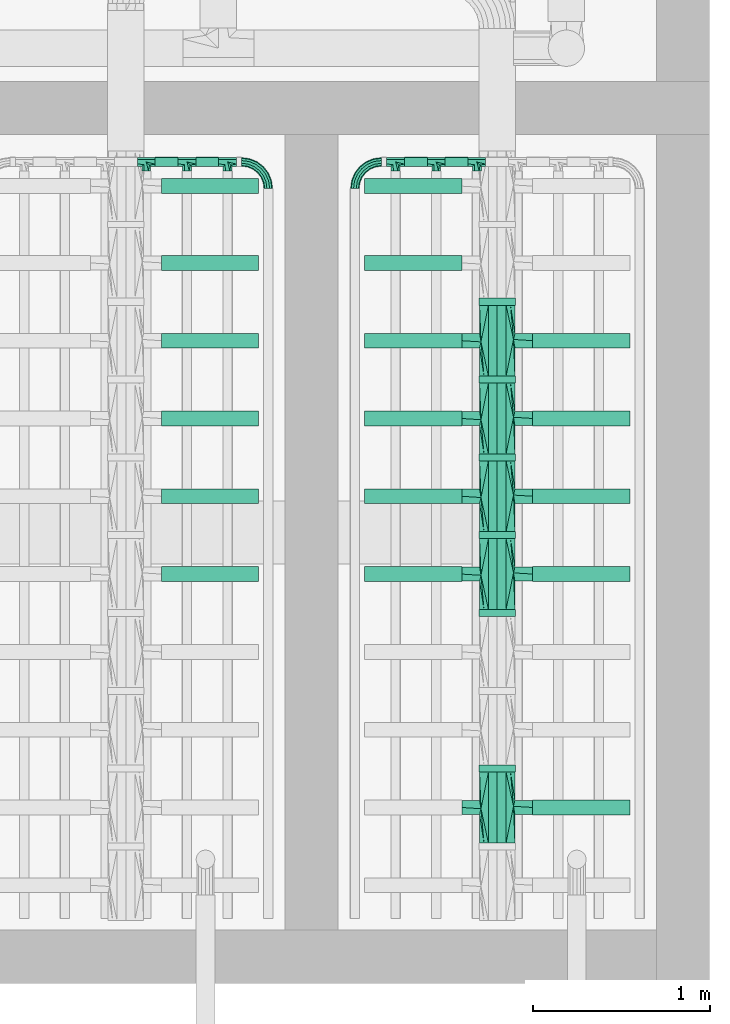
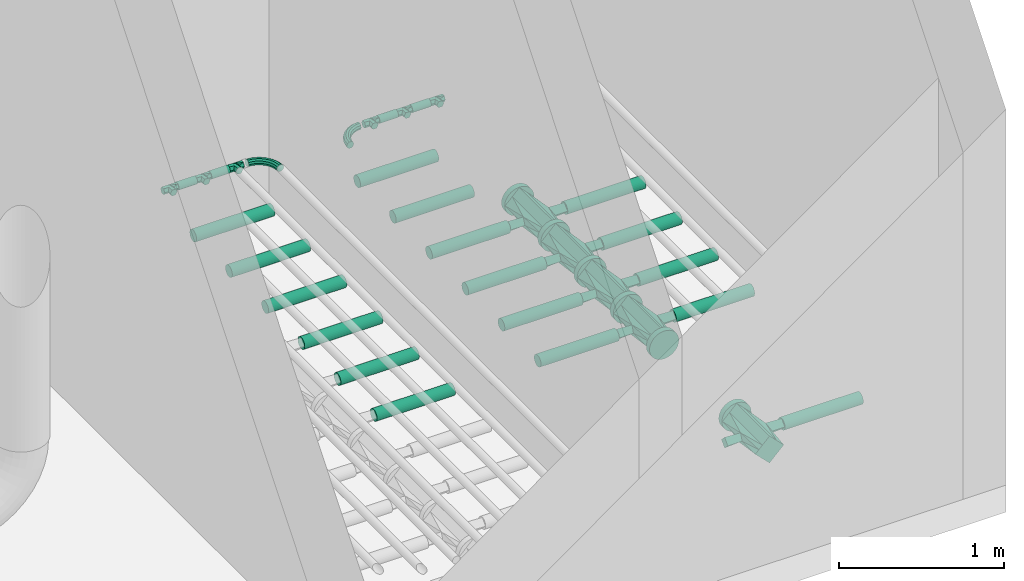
# One storey, part 21 of 28: 27 flow segments, 13 flow fittings.
"""IFC2X3 building model written with IfcOpenShell, lengths in millimetres."""

from ifc_helpers import new_model, entity, si_unit, converted_unit, direction, frame, frame_2d, origin, origin_2d_with_axis, place, context, subcontext, project, spatial, circle, extrude, faceted_brep, source, transform, mapped, material, type_object, type_shapes, element, save


model = new_model("IFC2X3")

# Units and contexts
model_context = context("Model", 3, precision=0.01, world=origin(), true_north=direction((6.123031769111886e-17, 1.0)))
body_context = subcontext(model_context, "Body", "Model", "MODEL_VIEW")
ifc_project = project(units=[si_unit("LENGTHUNIT", "METRE", prefix="MILLI"), converted_unit("PLANEANGLEUNIT", "DEGREE", entity("IfcPlaneAngleMeasure", 0.017453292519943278), si_unit("PLANEANGLEUNIT", "RADIAN"), dimensions=[0, 0, 0, 0, 0, 0, 0]), si_unit("AREAUNIT", "SQUARE_METRE")], contexts=[model_context])

# Site, building, storey
site_placement = place(None, frame((7776.576483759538, 118.3519876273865, 0.0)))
site = spatial("IfcSite", under=ifc_project, at=site_placement, Name="Default", CompositionType="ELEMENT")
building_placement = place(site_placement, origin())
building = spatial("IfcBuilding", under=site, at=building_placement, Name="Bygning (endres i Project Information)", CompositionType="ELEMENT")
storey_placement = place(building_placement, frame((0.0, 0.0, 14000.0)))
storey = spatial("IfcBuildingStorey", under=building, at=storey_placement, Name="Plan U1 - Arbeid", CompositionType="ELEMENT", Elevation=14000.000000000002)

# Flow segments
ifc_material = material(Name="SS 2343 Rustfritt stål, prosessrør, generisk")
pipe_segment_type = type_object("IfcPipeSegmentType", Name="Pipe Types:AISI 304L Rustfritt", PredefinedType="NOTDEFINED", material=ifc_material)
flow_segment_1_placement = place(storey_placement, origin())
element("IfcFlowSegment", 1, at=flow_segment_1_placement, inside=storey, type_object=pipe_segment_type, Name="Pipe Types:AISI 304L Rustfritt", ObjectType="Pipe Types:AISI 304L Rustfritt", context=body_context, shape_type="SweptSolid", body=[
    extrude(circle(Radius=42.0, at=origin_2d_with_axis()), frame((29174.001374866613, 23905.75730578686, 203.0), z_axis=(1.0, 0.0, 0.0), x_axis=(0.0, -1.0, 0.0)), (0.0, 0.0, 1.0), 549.99999999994),
])
flow_segment_2_placement = place(storey_placement, origin())
element("IfcFlowSegment", 2, at=flow_segment_2_placement, inside=storey, type_object=pipe_segment_type, Name="Pipe Types:AISI 304L Rustfritt", ObjectType="Pipe Types:AISI 304L Rustfritt", context=body_context, shape_type="SweptSolid", body=[
    extrude(circle(Radius=42.0, at=origin_2d_with_axis()), frame((29174.001374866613, 23471.757305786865, 203.0), z_axis=(1.0, 0.0, 0.0), x_axis=(0.0, -1.0, 0.0)), (0.0, 0.0, 1.0), 549.99999999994),
])
flow_segment_3_placement = place(storey_placement, origin())
element("IfcFlowSegment", 3, at=flow_segment_3_placement, inside=storey, type_object=pipe_segment_type, Name="Pipe Types:AISI 304L Rustfritt", ObjectType="Pipe Types:AISI 304L Rustfritt", context=body_context, shape_type="SweptSolid", body=[
    extrude(circle(Radius=42.0, at=origin_2d_with_axis()), frame((29174.001374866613, 23031.757305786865, 203.0), z_axis=(1.0, 0.0, 0.0), x_axis=(0.0, -1.0, 0.0)), (0.0, 0.0, 1.0), 549.99999999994),
])
flow_segment_4_placement = place(storey_placement, origin())
element("IfcFlowSegment", 4, at=flow_segment_4_placement, inside=storey, type_object=pipe_segment_type, Name="Pipe Types:AISI 304L Rustfritt", ObjectType="Pipe Types:AISI 304L Rustfritt", context=body_context, shape_type="SweptSolid", body=[
    extrude(circle(Radius=42.0, at=origin_2d_with_axis()), frame((29174.001374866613, 22151.757305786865, 203.0), z_axis=(1.0, 0.0, 0.0), x_axis=(0.0, -1.0, 0.0)), (0.0, 0.0, 1.0), 549.99999999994),
])
flow_segment_5_placement = place(storey_placement, origin())
element("IfcFlowSegment", 5, at=flow_segment_5_placement, inside=storey, type_object=pipe_segment_type, Name="Pipe Types:AISI 304L Rustfritt", ObjectType="Pipe Types:AISI 304L Rustfritt", context=body_context, shape_type="SweptSolid", body=[
    extrude(circle(Radius=42.0, at=origin_2d_with_axis()), frame((29174.001374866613, 21711.757305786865, 203.0), z_axis=(1.0, 0.0, 0.0), x_axis=(0.0, -1.0, 0.0)), (0.0, 0.0, 1.0), 549.99999999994),
])
flow_segment_6_placement = place(storey_placement, origin())
element("IfcFlowSegment", 6, at=flow_segment_6_placement, inside=storey, type_object=pipe_segment_type, Name="Pipe Types:AISI 304L Rustfritt", ObjectType="Pipe Types:AISI 304L Rustfritt", context=body_context, shape_type="SweptSolid", body=[
    extrude(circle(Radius=27.0, at=frame_2d((0.0, -2.1657342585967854e-12), x_axis=(1.0, 0.0))), frame((29139.001374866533, 24042.757305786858, 500.0), z_axis=(1.0, 0.0, 0.0), x_axis=(0.0, -1.0, 0.0)), (0.0, 0.0, 1.0), 130.00000000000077),
])
flow_segment_7_placement = place(storey_placement, origin())
element("IfcFlowSegment", 7, at=flow_segment_7_placement, inside=storey, type_object=pipe_segment_type, Name="Pipe Types:AISI 304L Rustfritt", ObjectType="Pipe Types:AISI 304L Rustfritt", context=body_context, shape_type="SweptSolid", body=[
    extrude(circle(Radius=27.0, at=frame_2d((0.0, -2.1657342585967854e-12), x_axis=(1.0, 0.0))), frame((29369.001374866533, 24042.757305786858, 500.0), z_axis=(1.0, 0.0, 0.0), x_axis=(0.0, -1.0, 0.0)), (0.0, 0.0, 1.0), 130.00000000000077),
])
flow_segment_8_placement = place(storey_placement, origin())
element("IfcFlowSegment", 8, at=flow_segment_8_placement, inside=storey, type_object=pipe_segment_type, Name="Pipe Types:AISI 304L Rustfritt", ObjectType="Pipe Types:AISI 304L Rustfritt", context=body_context, shape_type="SweptSolid", body=[
    extrude(circle(Radius=42.0, at=origin_2d_with_axis()), frame((30324.001374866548, 23905.757305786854, 203.0), z_axis=(1.0, 0.0, 0.0), x_axis=(0.0, -1.0, 0.0)), (0.0, 0.0, 1.0), 550.0000000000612),
])
flow_segment_9_placement = place(storey_placement, origin())
element("IfcFlowSegment", 9, at=flow_segment_9_placement, inside=storey, type_object=pipe_segment_type, Name="Pipe Types:AISI 304L Rustfritt", ObjectType="Pipe Types:AISI 304L Rustfritt", context=body_context, shape_type="SweptSolid", body=[
    extrude(circle(Radius=42.0, at=origin_2d_with_axis()), frame((30324.001374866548, 23471.757305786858, 203.0), z_axis=(1.0, 0.0, 0.0), x_axis=(0.0, -1.0, 0.0)), (0.0, 0.0, 1.0), 550.0000000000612),
])
flow_segment_10_placement = place(storey_placement, origin())
element("IfcFlowSegment", 10, at=flow_segment_10_placement, inside=storey, type_object=pipe_segment_type, Name="Pipe Types:AISI 304L Rustfritt", ObjectType="Pipe Types:AISI 304L Rustfritt", context=body_context, shape_type="SweptSolid", body=[
    extrude(circle(Radius=42.0, at=origin_2d_with_axis()), frame((31274.00137486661, 23031.757305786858, 203.0), z_axis=(1.0, 0.0, 0.0), x_axis=(0.0, -1.0, 0.0)), (0.0, 0.0, 1.0), 549.99999999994),
])
flow_segment_11_placement = place(storey_placement, origin())
element("IfcFlowSegment", 11, at=flow_segment_11_placement, inside=storey, type_object=pipe_segment_type, Name="Pipe Types:AISI 304L Rustfritt", ObjectType="Pipe Types:AISI 304L Rustfritt", context=body_context, shape_type="SweptSolid", body=[
    extrude(circle(Radius=42.0, at=origin_2d_with_axis()), frame((30324.001374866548, 23031.757305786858, 203.0), z_axis=(1.0, 0.0, 0.0), x_axis=(0.0, -1.0, 0.0)), (0.0, 0.0, 1.0), 550.0000000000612),
])
flow_segment_12_placement = place(storey_placement, origin())
element("IfcFlowSegment", 12, at=flow_segment_12_placement, inside=storey, type_object=pipe_segment_type, Name="Pipe Types:AISI 304L Rustfritt", ObjectType="Pipe Types:AISI 304L Rustfritt", context=body_context, shape_type="SweptSolid", body=[
    extrude(circle(Radius=103.0, at=origin_2d_with_axis()), frame((31074.001374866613, 23231.757305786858, 203.0), z_axis=(0.0, 1.0, 0.0), x_axis=(1.0, 0.0, 0.0)), (0.0, 0.0, 1.0), 39.99999999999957),
])
flow_segment_13_placement = place(storey_placement, origin())
element("IfcFlowSegment", 13, at=flow_segment_13_placement, inside=storey, type_object=pipe_segment_type, Name="Pipe Types:AISI 304L Rustfritt", ObjectType="Pipe Types:AISI 304L Rustfritt", context=body_context, shape_type="SweptSolid", body=[
    extrude(circle(Radius=42.0, at=origin_2d_with_axis()), frame((30324.001374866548, 22591.757305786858, 203.0), z_axis=(1.0, 0.0, 0.0), x_axis=(0.0, -1.0, 0.0)), (0.0, 0.0, 1.0), 550.0000000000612),
])
flow_segment_14_placement = place(storey_placement, origin())
element("IfcFlowSegment", 14, at=flow_segment_14_placement, inside=storey, type_object=pipe_segment_type, Name="Pipe Types:AISI 304L Rustfritt", ObjectType="Pipe Types:AISI 304L Rustfritt", context=body_context, shape_type="SweptSolid", body=[
    extrude(circle(Radius=103.0, at=origin_2d_with_axis()), frame((31074.001374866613, 22791.757305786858, 203.0), z_axis=(0.0, 1.0, 0.0), x_axis=(1.0, 0.0, 0.0)), (0.0, 0.0, 1.0), 39.99999999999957),
])
flow_segment_15_placement = place(storey_placement, origin())
element("IfcFlowSegment", 15, at=flow_segment_15_placement, inside=storey, type_object=pipe_segment_type, Name="Pipe Types:AISI 304L Rustfritt", ObjectType="Pipe Types:AISI 304L Rustfritt", context=body_context, shape_type="SweptSolid", body=[
    extrude(circle(Radius=42.0, at=origin_2d_with_axis()), frame((31274.00137486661, 22151.757305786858, 203.0), z_axis=(1.0, 0.0, 0.0), x_axis=(0.0, -1.0, 0.0)), (0.0, 0.0, 1.0), 549.99999999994),
])
flow_segment_16_placement = place(storey_placement, origin())
element("IfcFlowSegment", 16, at=flow_segment_16_placement, inside=storey, type_object=pipe_segment_type, Name="Pipe Types:AISI 304L Rustfritt", ObjectType="Pipe Types:AISI 304L Rustfritt", context=body_context, shape_type="SweptSolid", body=[
    extrude(circle(Radius=42.0, at=origin_2d_with_axis()), frame((30324.001374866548, 22151.757305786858, 203.0), z_axis=(1.0, 0.0, 0.0), x_axis=(0.0, -1.0, 0.0)), (0.0, 0.0, 1.0), 550.0000000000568),
])
flow_segment_17_placement = place(storey_placement, origin())
element("IfcFlowSegment", 17, at=flow_segment_17_placement, inside=storey, type_object=pipe_segment_type, Name="Pipe Types:AISI 304L Rustfritt", ObjectType="Pipe Types:AISI 304L Rustfritt", context=body_context, shape_type="SweptSolid", body=[
    extrude(circle(Radius=103.0, at=origin_2d_with_axis()), frame((31074.00137486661, 22351.75730578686, 203.0), z_axis=(0.0, 1.0, 0.0), x_axis=(1.0, 0.0, 0.0)), (0.0, 0.0, 1.0), 39.99999999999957),
])
flow_segment_18_placement = place(storey_placement, origin())
element("IfcFlowSegment", 18, at=flow_segment_18_placement, inside=storey, type_object=pipe_segment_type, Name="Pipe Types:AISI 304L Rustfritt", ObjectType="Pipe Types:AISI 304L Rustfritt", context=body_context, shape_type="SweptSolid", body=[
    extrude(circle(Radius=42.0, at=origin_2d_with_axis()), frame((31274.00137486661, 21711.757305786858, 203.0), z_axis=(1.0, 0.0, 0.0), x_axis=(0.0, -1.0, 0.0)), (0.0, 0.0, 1.0), 549.99999999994),
])
flow_segment_19_placement = place(storey_placement, origin())
element("IfcFlowSegment", 19, at=flow_segment_19_placement, inside=storey, type_object=pipe_segment_type, Name="Pipe Types:AISI 304L Rustfritt", ObjectType="Pipe Types:AISI 304L Rustfritt", context=body_context, shape_type="SweptSolid", body=[
    extrude(circle(Radius=42.0, at=origin_2d_with_axis()), frame((30324.001374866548, 21711.757305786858, 203.0), z_axis=(1.0, 0.0, 0.0), x_axis=(0.0, -1.0, 0.0)), (0.0, 0.0, 1.0), 550.0000000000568),
])
flow_segment_20_placement = place(storey_placement, origin())
element("IfcFlowSegment", 20, at=flow_segment_20_placement, inside=storey, type_object=pipe_segment_type, Name="Pipe Types:AISI 304L Rustfritt", ObjectType="Pipe Types:AISI 304L Rustfritt", context=body_context, shape_type="SweptSolid", body=[
    extrude(circle(Radius=103.0, at=origin_2d_with_axis()), frame((31074.00137486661, 21911.75730578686, 203.0), z_axis=(0.0, 1.0, 0.0), x_axis=(1.0, 0.0, 0.0)), (0.0, 0.0, 1.0), 39.99999999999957),
])
flow_segment_21_placement = place(storey_placement, origin())
element("IfcFlowSegment", 21, at=flow_segment_21_placement, inside=storey, type_object=pipe_segment_type, Name="Pipe Types:AISI 304L Rustfritt", ObjectType="Pipe Types:AISI 304L Rustfritt", context=body_context, shape_type="SweptSolid", body=[
    extrude(circle(Radius=103.0, at=origin_2d_with_axis()), frame((31074.00137486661, 21471.757305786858, 203.0), z_axis=(0.0, 1.0, 0.0), x_axis=(1.0, 0.0, 0.0)), (0.0, 0.0, 1.0), 40.0000000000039),
])
flow_segment_22_placement = place(storey_placement, origin())
element("IfcFlowSegment", 22, at=flow_segment_22_placement, inside=storey, type_object=pipe_segment_type, Name="Pipe Types:AISI 304L Rustfritt", ObjectType="Pipe Types:AISI 304L Rustfritt", context=body_context, shape_type="SweptSolid", body=[
    extrude(circle(Radius=42.0, at=origin_2d_with_axis()), frame((31274.00137486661, 20391.757305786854, 203.0), z_axis=(1.0, 0.0, 0.0), x_axis=(0.0, -1.0, 0.0)), (0.0, 0.0, 1.0), 549.99999999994),
])
flow_segment_23_placement = place(storey_placement, origin())
element("IfcFlowSegment", 23, at=flow_segment_23_placement, inside=storey, type_object=pipe_segment_type, Name="Pipe Types:AISI 304L Rustfritt", ObjectType="Pipe Types:AISI 304L Rustfritt", context=body_context, shape_type="SweptSolid", body=[
    extrude(circle(Radius=103.0, at=origin_2d_with_axis()), frame((31074.00137486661, 20591.757305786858, 203.0), z_axis=(0.0, 1.0, 0.0), x_axis=(1.0, 0.0, 0.0)), (0.0, 0.0, 1.0), 39.99999999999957),
])
flow_segment_24_placement = place(storey_placement, origin())
element("IfcFlowSegment", 24, at=flow_segment_24_placement, inside=storey, type_object=pipe_segment_type, Name="Pipe Types:AISI 304L Rustfritt", ObjectType="Pipe Types:AISI 304L Rustfritt", context=body_context, shape_type="SweptSolid", body=[
    extrude(circle(Radius=27.0, at=frame_2d((0.0, -2.1657342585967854e-12), x_axis=(1.0, 0.0))), frame((30549.00137486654, 24042.757305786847, 500.0), z_axis=(1.0, 0.0, 0.0), x_axis=(0.0, -1.0, 0.0)), (0.0, 0.0, 1.0), 130.00000000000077),
])
flow_segment_25_placement = place(storey_placement, origin())
element("IfcFlowSegment", 25, at=flow_segment_25_placement, inside=storey, type_object=pipe_segment_type, Name="Pipe Types:AISI 304L Rustfritt", ObjectType="Pipe Types:AISI 304L Rustfritt", context=body_context, shape_type="SweptSolid", body=[
    extrude(circle(Radius=27.0, at=frame_2d((0.0, -2.1657342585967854e-12), x_axis=(1.0, 0.0))), frame((30779.00137486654, 24042.757305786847, 500.0), z_axis=(1.0, 0.0, 0.0), x_axis=(0.0, -1.0, 0.0)), (0.0, 0.0, 1.0), 129.9999999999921),
])
flow_segment_26_placement = place(storey_placement, origin())
element("IfcFlowSegment", 26, at=flow_segment_26_placement, inside=storey, type_object=pipe_segment_type, Name="Pipe Types:AISI 304L Rustfritt", ObjectType="Pipe Types:AISI 304L Rustfritt", context=body_context, shape_type="SweptSolid", body=[
    extrude(circle(Radius=42.0, at=origin_2d_with_axis()), frame((29174.001374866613, 22591.757305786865, 203.0), z_axis=(1.0, 0.0, 0.0), x_axis=(0.0, -1.0, 0.0)), (0.0, 0.0, 1.0), 549.99999999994),
])
flow_segment_27_placement = place(storey_placement, origin())
element("IfcFlowSegment", 27, at=flow_segment_27_placement, inside=storey, type_object=pipe_segment_type, Name="Pipe Types:AISI 304L Rustfritt", ObjectType="Pipe Types:AISI 304L Rustfritt", context=body_context, shape_type="SweptSolid", body=[
    extrude(circle(Radius=42.0, at=origin_2d_with_axis()), frame((31274.00137486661, 22591.757305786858, 203.0), z_axis=(1.0, 0.0, 0.0), x_axis=(0.0, -1.0, 0.0)), (0.0, 0.0, 1.0), 549.99999999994),
])

# Flow fittings
pipe_fitting_type_1 = type_object("IfcPipeFittingType", Name="VA_prosess_rustfritt_kryss:VA_prosess_rustfritt_kryss", PredefinedType="NOTDEFINED", material=ifc_material)
shared_shape_1 = source(origin(), body_context, "Body", "Brep", [
    faceted_brep([(-200.0, -100.0, 0.0), (-200.0, -50.0, 50.0), (-200.0, 0.0, 100.0), (-200.0, 50.0, 50.0), (-200.0, 75.0, 25.0), (-200.0, 100.0, 0.0), (-200.0, 50.0, -50.0), (-200.0, 0.0, -100.0), (-200.0, -50.0, -50.0), (-200.0, -75.0, -25.0), (200.0, 50.0, -50.0), (200.0, 75.0, -25.0), (200.0, 100.0, 0.0), (200.0, 50.0, 50.0), (200.0, 0.0, 100.0), (200.0, -50.0, 50.0), (200.0, -75.0, 25.0), (200.0, -100.0, 0.0), (200.0, -50.0, -50.0), (200.0, 0.0, -100.0), (40.0, -100.0, 0.0), (-7.006670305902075, 91.91895032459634, 39.381551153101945), (-40.0, -100.0, 0.0), (-28.24833242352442, -97.97973758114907, 9.845387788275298), (-16.496664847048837, -95.9594751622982, 19.690775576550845), (-4.744997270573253, -93.93921274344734, 29.53616336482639), (7.00667030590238, -91.91895032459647, 39.38155115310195), (23.50333515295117, -95.95947516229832, 19.690775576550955), (-23.503335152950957, 95.95947516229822, 19.69077557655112), (-40.0, 100.0, 0.0), (40.0, 100.0, 0.0), (28.248332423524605, 97.97973758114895, 9.845387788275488), (16.496664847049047, 95.95947516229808, 19.690775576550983), (4.744997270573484, 93.93921274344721, 29.536163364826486), (-7.017574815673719, -91.91978218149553, -39.37960949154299), (-23.508787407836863, -95.95989109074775, -19.68980474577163), (-28.245606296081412, 97.97994554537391, -9.844902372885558), (-16.491212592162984, 95.95989109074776, -19.689804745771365), (-4.736818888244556, 93.93983663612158, -29.534707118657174), (7.017574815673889, 91.91978218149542, -39.37960949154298), (23.508787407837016, 95.95989109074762, -19.689804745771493), (28.24560629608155, -97.97994554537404, -9.844902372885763), (16.49121259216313, -95.95989109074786, -19.689804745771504), (4.736818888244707, -93.9398366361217, -29.53470711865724), (19.233483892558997, -200.0, -20.76651610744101), (29.616741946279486, -200.0, -10.383258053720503), (40.0, -200.0, 0.0), (20.0, -200.0, 20.0), (0.0, -200.0, 40.0), (-19.2334837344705, -200.0, 20.76651626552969), (-29.616741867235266, -200.0, 10.383258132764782), (-40.0, -200.0, 0.0), (-20.0, -200.0, -20.0), (0.0, -200.0, -40.0), (-19.23348389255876, 200.0, -20.766516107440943), (-29.616741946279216, 200.0, -10.38325805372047), (-40.0, 200.0, 0.0), (-20.0, 200.0, 20.0), (0.0, 200.0, 40.0), (19.233483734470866, 200.0, 20.76651626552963), (29.616741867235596, 200.0, 10.383258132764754), (40.0, 200.0, 0.0), (20.0, 200.0, -20.0), (0.0, 200.0, -40.0)], [[[0, 1, 2, 3, 4, 5, 6, 7, 8, 9]], [[10, 11, 12, 13, 14, 15, 16, 17, 18, 19]], [[17, 16, 20]], [[15, 14, 2, 1]], [[3, 13, 21]], [[0, 22, 23, 24, 25, 26]], [[0, 26, 1]], [[16, 26, 27, 20]], [[4, 21, 28, 29]], [[21, 13, 12]], [[26, 16, 15]], [[12, 30, 31, 32, 33, 21]], [[29, 5, 4]], [[2, 14, 13, 3]], [[21, 4, 3]], [[1, 26, 15]], [[11, 30, 12]], [[10, 19, 7, 6]], [[34, 9, 8]], [[9, 34, 35, 22]], [[5, 29, 36, 37, 38, 39]], [[39, 11, 10]], [[5, 39, 6]], [[34, 18, 17]], [[11, 39, 40, 30]], [[17, 20, 41, 42, 43, 34]], [[22, 0, 9]], [[7, 19, 18, 8]], [[6, 39, 10]], [[8, 18, 34]], [[44, 45, 46, 47, 48, 49, 50, 51, 52, 53]], [[25, 24, 23, 49]], [[49, 23, 50]], [[50, 22, 51]], [[49, 48, 25]], [[26, 48, 47]], [[47, 27, 26]], [[20, 27, 46]], [[46, 27, 47]], [[48, 26, 25]], [[22, 50, 23]], [[43, 42, 41, 44]], [[44, 41, 45]], [[45, 20, 46]], [[44, 53, 43]], [[34, 53, 52]], [[52, 35, 34]], [[22, 35, 51]], [[51, 35, 52]], [[53, 34, 43]], [[20, 45, 41]], [[54, 55, 56, 57, 58, 59, 60, 61, 62, 63]], [[33, 32, 31, 59]], [[59, 31, 60]], [[60, 30, 61]], [[59, 58, 33]], [[21, 58, 57]], [[57, 28, 21]], [[29, 28, 56]], [[56, 28, 57]], [[58, 21, 33]], [[30, 60, 31]], [[38, 37, 36, 54]], [[54, 36, 55]], [[55, 29, 56]], [[54, 63, 38]], [[39, 63, 62]], [[62, 40, 39]], [[30, 40, 61]], [[61, 40, 62]], [[63, 39, 38]], [[29, 55, 36]]]),
])
type_shapes(pipe_fitting_type_1, [shared_shape_1])
for number, where, z_axis, x_axis in (
    (28, (31074.001374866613, 23031.757305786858, 203.0), (0.0, 0.0, 1.0), (0.0, 1.0, 0.0)),
    (29, (31074.001374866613, 22591.757305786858, 203.0), (0.0, 0.0, 1.0), (0.0, 1.0, 0.0)),
    (30, (31074.00137486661, 22151.757305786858, 203.0), (0.0, 0.0, 1.0), (0.0, 1.0, 0.0)),
    (31, (31074.00137486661, 21711.757305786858, 203.0), (0.0, 0.0, 1.0), (0.0, 1.0, 0.0)),
    (32, (31074.00137486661, 20391.757305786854, 203.0), (0.0, 0.0, 1.0), (0.0, 1.0, 0.0)),
):
    element("IfcFlowFitting", number, at=place(storey_placement, frame(where, z_axis=z_axis, x_axis=x_axis)), inside=storey, type_object=pipe_fitting_type_1, material=ifc_material, Name="VA_prosess_rustfritt_kryss:VA_prosess_rustfritt_kryss", ObjectType="VA_prosess_rustfritt_kryss:VA_prosess_rustfritt_kryss", context=body_context, shape_type="MappedRepresentation", body=[
        mapped(shared_shape_1, transform((0.0, 0.0, 0.0), scale=1.0)),
    ])
pipe_fitting_type_2 = type_object("IfcPipeFittingType", Name="VA_prosess_rustfritt_bend_D+100:VA_prosess_rustfritt_bend_D+100", PredefinedType="NOTDEFINED", material=ifc_material)
shared_shape_2 = source(origin(), body_context, "Body", "Brep", [
    faceted_brep([(-104.70666710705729, -19.03701960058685, 0.0), (-105.9424180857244, -14.425134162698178, 14.694631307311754), (-150.0, -20.22542485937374, 14.694631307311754), (-150.0, -25.0, 0.0), (-109.17765614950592, -2.351061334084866, 23.776412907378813), (-150.0, -7.725424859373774, 23.776412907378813), (-113.17663031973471, 12.573313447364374, 23.776412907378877), (-150.0, 7.725424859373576, 23.776412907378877), (-116.41186838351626, 24.647386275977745, 14.694631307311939), (-150.0, 20.225424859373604, 14.694631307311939), (-117.6476193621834, 29.259271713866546, 0.0), (-150.0, 25.0, 0.0), (-116.41186838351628, 24.647386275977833, -14.69463130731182), (-150.0, 20.225424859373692, -14.69463130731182), (-113.17663031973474, 12.573313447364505, -23.77641290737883), (-150.0, 7.725424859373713, -23.77641290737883), (-109.17765614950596, -2.351061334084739, -23.776412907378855), (-150.0, -7.725424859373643, -23.776412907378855), (-105.94241808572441, -14.425134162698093, -14.694631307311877), (-150.0, -20.22542485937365, -14.694631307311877), (-62.49999999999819, -1.554445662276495, 0.0), (-64.88728757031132, 2.5804577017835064, 14.694631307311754), (-71.13728757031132, 13.405775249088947, 23.776412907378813), (-78.86271242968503, 26.78660361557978, 23.776412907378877), (-85.11271242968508, 37.61192116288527, 14.694631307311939), (-87.49999999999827, 41.746824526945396, 0.0), (-85.11271242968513, 37.611921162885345, -14.69463130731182), (-78.8627124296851, 26.786603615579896, -23.77641290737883), (-71.13728757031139, 13.40577524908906, -23.776412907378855), (-64.88728757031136, 2.5804577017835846, -14.694631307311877), (-26.256313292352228, 26.25631329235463, 0.0), (-29.63244775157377, 29.632447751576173, 14.694631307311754), (-38.47128251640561, 38.471282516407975, 23.776412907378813), (-49.396683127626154, 49.39668312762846, 23.776412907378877), (-58.235517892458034, 58.23551789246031, 14.694631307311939), (-61.611652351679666, 61.61165235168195, 0.0), (-58.23551789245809, 58.235517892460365, -14.69463130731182), (-49.39668312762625, 49.396683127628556, -23.77641290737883), (-38.4712825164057, 38.47128251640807, -23.776412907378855), (-29.632447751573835, 29.632447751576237, -14.694631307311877), (1.5544456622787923, 62.50000000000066, 0.0), (-2.580457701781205, 64.8872875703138, 14.694631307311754), (-13.405775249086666, 71.13728757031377, 23.776412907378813), (-26.78660361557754, 78.86271242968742, 23.776412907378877), (-37.61192116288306, 85.1127124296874, 14.694631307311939), (-41.746824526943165, 87.50000000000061, 0.0), (-37.611921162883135, 85.11271242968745, -14.69463130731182), (-26.786603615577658, 78.86271242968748, -23.77641290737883), (-13.40577524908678, 71.13728757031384, -23.776412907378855), (-2.5804577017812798, 64.88728757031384, -14.694631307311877), (19.037019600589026, 104.70666710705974, 0.0), (14.425134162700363, 105.94241808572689, 14.694631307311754), (2.351061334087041, 109.17765614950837, 23.776412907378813), (-12.57331344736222, 113.17663031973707, 23.776412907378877), (-24.647386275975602, 116.41186838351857, 14.694631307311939), (-29.259271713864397, 117.64761936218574, 0.0), (-24.64738627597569, 116.4118683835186, -14.69463130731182), (-12.573313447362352, 113.17663031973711, -23.77641290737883), (2.351061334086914, 109.1776561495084, -23.776412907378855), (14.425134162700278, 105.9424180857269, -14.694631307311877), (25.0, 150.0, 0.0), (20.22542485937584, 150.0, 14.694631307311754), (7.725424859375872, 150.0, 23.776412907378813), (-7.725424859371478, 150.0, 23.776412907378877), (-20.225424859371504, 150.0, 14.694631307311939), (-25.0, 150.0, 0.0), (-20.225424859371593, 150.0, -14.69463130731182), (-7.725424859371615, 150.0, -23.77641290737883), (7.725424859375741, 150.0, -23.776412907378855), (20.22542485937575, 150.0, -14.694631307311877)], [[[0, 1, 2, 3]], [[1, 4, 5, 2]], [[4, 6, 7, 5]], [[6, 8, 9, 7]], [[8, 10, 11, 9]], [[10, 12, 13, 11]], [[12, 14, 15, 13]], [[14, 16, 17, 15]], [[16, 18, 19, 17]], [[18, 0, 3, 19]], [[20, 21, 1, 0]], [[21, 22, 4, 1]], [[22, 23, 6, 4]], [[23, 24, 8, 6]], [[24, 25, 10, 8]], [[25, 26, 12, 10]], [[26, 27, 14, 12]], [[27, 28, 16, 14]], [[28, 29, 18, 16]], [[29, 20, 0, 18]], [[30, 31, 21, 20]], [[31, 32, 22, 21]], [[32, 33, 23, 22]], [[33, 34, 24, 23]], [[34, 35, 25, 24]], [[35, 36, 26, 25]], [[36, 37, 27, 26]], [[37, 38, 28, 27]], [[38, 39, 29, 28]], [[39, 30, 20, 29]], [[40, 41, 31, 30]], [[41, 42, 32, 31]], [[42, 43, 33, 32]], [[43, 44, 34, 33]], [[44, 45, 35, 34]], [[45, 46, 36, 35]], [[46, 47, 37, 36]], [[47, 48, 38, 37]], [[48, 49, 39, 38]], [[49, 40, 30, 39]], [[50, 51, 41, 40]], [[51, 52, 42, 41]], [[52, 53, 43, 42]], [[53, 54, 44, 43]], [[54, 55, 45, 44]], [[55, 56, 46, 45]], [[56, 57, 47, 46]], [[57, 58, 48, 47]], [[58, 59, 49, 48]], [[59, 50, 40, 49]], [[60, 61, 51, 50]], [[61, 62, 52, 51]], [[62, 63, 53, 52]], [[63, 64, 54, 53]], [[64, 65, 55, 54]], [[65, 66, 56, 55]], [[66, 67, 57, 56]], [[67, 68, 58, 57]], [[68, 69, 59, 58]], [[69, 60, 50, 59]], [[3, 2, 5, 7, 9, 11, 13, 15, 17, 19]], [[69, 68, 67, 66, 65, 64, 63, 62, 61, 60]]]),
])
type_shapes(pipe_fitting_type_2, [shared_shape_2])
for number, where, z_axis, x_axis in (
    (33, (29779.00137486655, 24042.75730578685, 500.0), (0.0, 0.0, 1.0), (0.0, 1.0, 0.0)),
    (34, (30269.001374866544, 24042.757305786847, 500.0), (0.0, 0.0, 1.0), (-1.0, 0.0, 0.0)),
):
    element("IfcFlowFitting", number, at=place(storey_placement, frame(where, z_axis=z_axis, x_axis=x_axis)), inside=storey, type_object=pipe_fitting_type_2, material=ifc_material, Name="VA_prosess_rustfritt_bend_D+100:VA_prosess_rustfritt_bend_D+100", ObjectType="VA_prosess_rustfritt_bend_D+100:VA_prosess_rustfritt_bend_D+100", context=body_context, shape_type="MappedRepresentation", body=[
        mapped(shared_shape_2, transform((0.0, 0.0, 0.0), scale=1.0)),
    ])
pipe_fitting_type_3 = type_object("IfcPipeFittingType", Name="VA_prosess_rustfritt_T_D=L:T-rør_prosess_D=L", PredefinedType="NOTDEFINED", material=ifc_material)
shared_shape_3 = source(origin(), body_context, "Body", "Brep", [
    faceted_brep([(-50.0, 12.499999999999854, 21.650635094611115), (-50.0, 18.74999999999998, 10.825317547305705), (-50.0, 25.0, 0.0), (-50.0, 19.790105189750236, -9.023802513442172), (-50.0, 12.50000000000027, -21.65063509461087), (-50.0, 0.0, -21.650635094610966), (-50.0, -12.499999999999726, -21.65063509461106), (-50.0, -18.74999999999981, -10.825317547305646), (-50.0, -25.0, 0.0), (-50.0, -21.874999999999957, 5.412658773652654), (-50.0, -18.750000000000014, 10.825317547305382), (-50.0, -12.50000000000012, 21.650635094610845), (-50.0, 0.0, 21.65063509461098), (50.0, 0.0, -21.650635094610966), (50.0, 12.499999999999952, -21.65063509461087), (50.0, 18.749999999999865, -10.825317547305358), (50.0, 25.0, 0.0), (50.0, 18.749999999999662, 10.825317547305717), (50.0, 12.499999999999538, 21.650635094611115), (50.0, 0.0, 21.65063509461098), (50.0, -12.500000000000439, 21.650635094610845), (50.0, -18.750000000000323, 10.825317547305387), (50.0, -25.0, 0.0), (50.0, -21.875000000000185, -5.41265877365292), (50.0, -18.75000000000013, -10.825317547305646), (50.0, -12.500000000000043, -21.65063509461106), (21.570584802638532, -21.570584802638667, 8.600842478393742), (18.14116960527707, -18.141169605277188, 17.20168495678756), (0.0, 0.0, 25.0), (-20.11623159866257, -20.11623159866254, 9.202284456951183), (-14.012032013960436, -14.01203201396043, 20.704177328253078), (25.0, -25.0, 0.0), (-25.0, -25.0, 0.0), (-19.50601600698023, -19.506016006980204, 10.352088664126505), (20.11623207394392, -20.11623207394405, -9.20228356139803), (-21.570584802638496, -21.570584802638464, -8.600842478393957), (0.0, 0.0, -25.0), (19.506016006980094, -19.50601600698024, -10.35208866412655), (14.012032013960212, -14.012032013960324, -20.7041773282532), (-18.141169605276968, -18.14116960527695, -17.201684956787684), (12.5, -50.0, -21.65063509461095), (19.790105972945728, -50.0, -9.023801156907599), (25.0, -50.0, 0.0), (18.74999999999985, -50.0, 10.82531754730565), (12.499999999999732, -50.0, 21.650635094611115), (0.0, -50.0, 21.65063509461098), (-12.500000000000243, -50.0, 21.650635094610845), (-19.79010601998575, -50.0, 9.023801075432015), (-25.0, -50.0, 0.0), (-18.75, -50.0, -10.825317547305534), (-12.49999999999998, -50.0, -21.65063509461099), (0.0, -50.0, -21.65063509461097)], [[[0, 1, 2, 3, 4, 5, 6, 7, 8, 9, 10, 11, 12]], [[13, 14, 15, 16, 17, 18, 19, 20, 21, 22, 23, 24, 25]], [[26, 22, 21]], [[27, 21, 20]], [[28, 20, 19, 18]], [[29, 10, 9]], [[11, 10, 30]], [[21, 27, 26]], [[22, 26, 31]], [[8, 32, 9]], [[20, 28, 27]], [[10, 29, 33, 30]], [[2, 1, 0, 18, 17, 16]], [[30, 12, 11]], [[30, 28, 12]], [[0, 28, 18]], [[32, 29, 9]], [[28, 0, 12]], [[4, 3, 2, 16, 15, 14]], [[31, 34, 23]], [[8, 35, 32]], [[4, 14, 36]], [[24, 34, 37, 38]], [[5, 4, 36, 6]], [[13, 25, 38]], [[31, 23, 22]], [[34, 24, 23]], [[38, 25, 24]], [[39, 6, 36]], [[7, 35, 8]], [[7, 39, 35]], [[36, 14, 13]], [[39, 7, 6]], [[38, 36, 13]], [[40, 41, 42, 43, 44, 45, 46, 47, 48, 49, 50, 51]], [[33, 46, 30]], [[32, 48, 47]], [[47, 33, 29, 32]], [[30, 46, 45]], [[27, 44, 43]], [[31, 43, 42]], [[46, 33, 47]], [[30, 45, 28]], [[43, 31, 26, 27]], [[28, 45, 44]], [[28, 44, 27]], [[37, 40, 38]], [[31, 42, 41]], [[41, 37, 34, 31]], [[38, 40, 51]], [[36, 50, 39]], [[32, 49, 48]], [[39, 50, 49]], [[40, 37, 41]], [[38, 51, 36]], [[49, 32, 35, 39]], [[36, 51, 50]]]),
])
type_shapes(pipe_fitting_type_3, [shared_shape_3])
for number, where, z_axis, x_axis in (
    (35, (29089.001374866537, 24042.757305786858, 500.0), (0.0, 0.0, -1.0), (-1.0, 0.0, 0.0)),
    (36, (29319.001374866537, 24042.757305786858, 500.0), (0.0, 0.0, -1.0), (-1.0, 0.0, 0.0)),
    (37, (29549.001374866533, 24042.757305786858, 500.0), (0.0, 0.0, -1.0), (-1.0, 0.0, 0.0)),
    (38, (30499.001374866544, 24042.757305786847, 500.0), (0.0, 0.0, -1.0), (-1.0, 0.0, 0.0)),
    (39, (30729.001374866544, 24042.757305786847, 500.0), (0.0, 0.0, -1.0), (-1.0, 0.0, 0.0)),
    (40, (30959.001374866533, 24042.757305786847, 500.0), (0.0, 0.0, -1.0), (-1.0, 0.0, 0.0)),
):
    element("IfcFlowFitting", number, at=place(storey_placement, frame(where, z_axis=z_axis, x_axis=x_axis)), inside=storey, type_object=pipe_fitting_type_3, material=ifc_material, Name="VA_prosess_rustfritt_T_D=L:T-rør_prosess_D=L", ObjectType="VA_prosess_rustfritt_T_D=L:T-rør_prosess_D=L", context=body_context, shape_type="MappedRepresentation", body=[
        mapped(shared_shape_3, transform((0.0, 0.0, 0.0), scale=1.0)),
    ])

save(model, "model.ifc")
